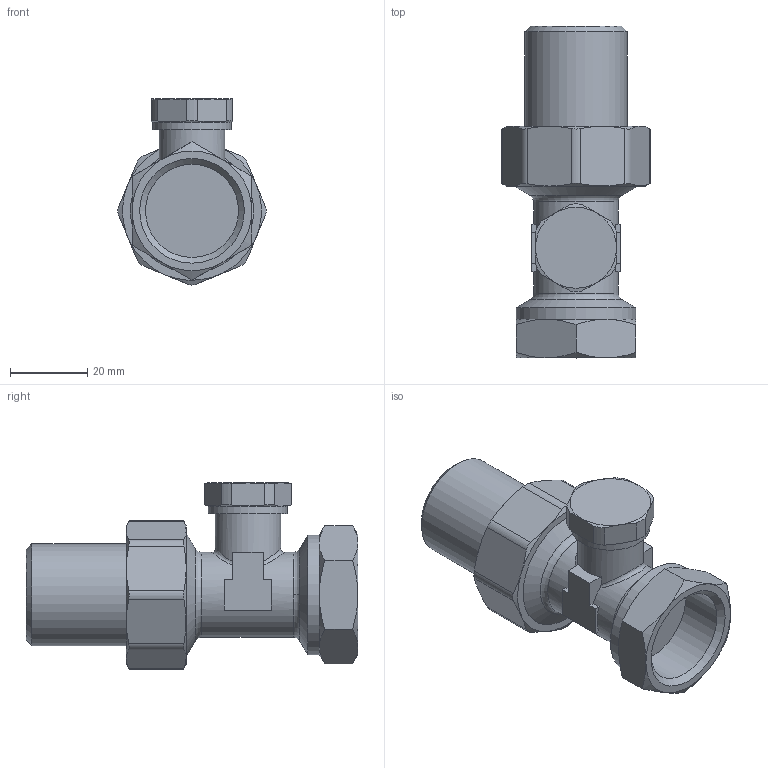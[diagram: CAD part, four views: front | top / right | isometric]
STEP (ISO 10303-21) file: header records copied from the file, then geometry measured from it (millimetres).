
FILE_DESCRIPTION(('STEP AP203'), '1');
FILE_NAME('VT.020.N.05', '2024-09-13T10:35:53', ('User'), ('Vesta'), 'C3D Converter', 'C3D Toolkit', '');
FILE_SCHEMA(('CONFIG_CONTROL_DESIGN'));
Length unit declared in the file: millimetre
Bounding box: 38.47 x 86 x 48.24 mm (x, y, z)
Volume: 54142.5 mm3; surface area: 12631.2 mm2
Topology: 1 solids, 1 shells, 98 faces, 258 edges, 160 vertices
Faces by surface type: plane 45, cone 28, cylinder 20, torus 3, bspline 2
Full cylindrical faces by diameter (mm): 17 x1, 20.5 x1, 22 x1, 24.118 x1, 26.441 x1, 31 x1
Entity records: 5111 total; most frequent: CARTESIAN_POINT 3067, ORIENTED_EDGE 442, DIRECTION 362, EDGE_CURVE 221, VERTEX_POINT 148, AXIS2_PLACEMENT_3D 143, EDGE_LOOP 111, ADVANCED_FACE 93
